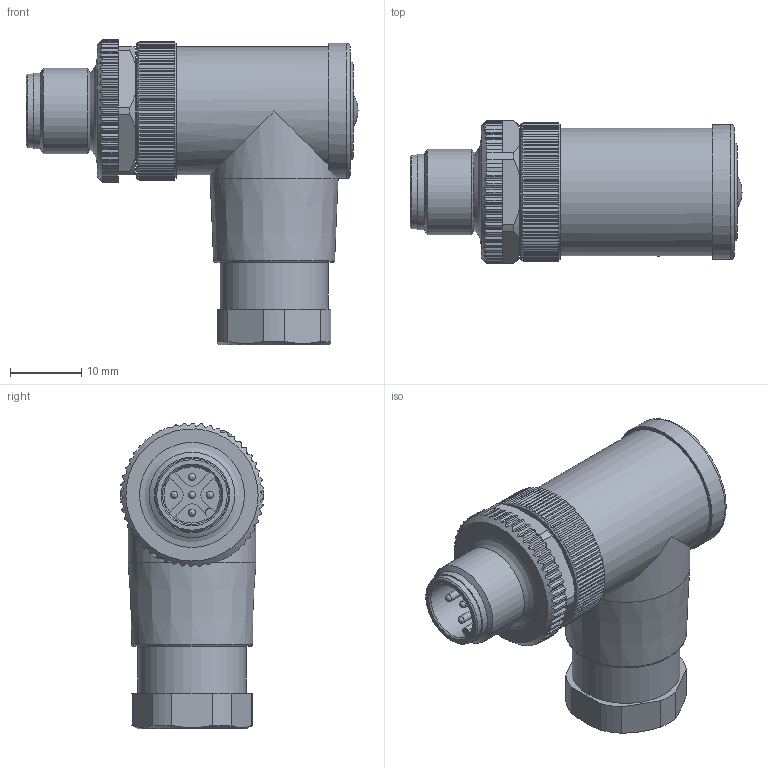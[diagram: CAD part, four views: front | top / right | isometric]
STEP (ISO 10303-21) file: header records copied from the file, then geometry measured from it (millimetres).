
FILE_DESCRIPTION(/* description */ (''),/* implementation_level */ '2;1');
FILE_NAME(/* name */ '99_0437_XXX_05_016_00.stp',/* time_stamp */ '2015-11-02T13:26:35+01:00',/* author */ (''),/* organization */ (''),/* preprocessor_version */ 'ST-DEVELOPER v14',/* originating_system */ 'SIEMENS PLM Software NX 8.0',/* authorisation */ '');
FILE_SCHEMA (('AUTOMOTIVE_DESIGN { 1 0 10303 214 3 1 1 1 }'));
Length unit declared in the file: millimetre
Products named in the file (1): cerl1624C2DC6iqo
Bounding box: 46.7 x 20.2 x 43 mm (x, y, z)
Volume: 15775.9 mm3; surface area: 5202.1 mm2
Topology: 1 solids, 1 shells, 617 faces, 1794 edges, 1188 vertices
Faces by surface type: plane 359, cylinder 230, cone 18, sphere 5, torus 4, bspline 1
Full cylindrical faces by diameter (mm): 1 x5, 8.3 x1, 10.3 x1, 10.6 x1, 12 x1, 13.9 x1, 15.2 x1, 18 x2, 19 x2
Entity records: 21757 total; most frequent: CARTESIAN_POINT 6143, ORIENTED_EDGE 3484, DIRECTION 2954, EDGE_CURVE 1742, VERTEX_POINT 1170, AXIS2_PLACEMENT_3D 1021, LINE 912, VECTOR 912
